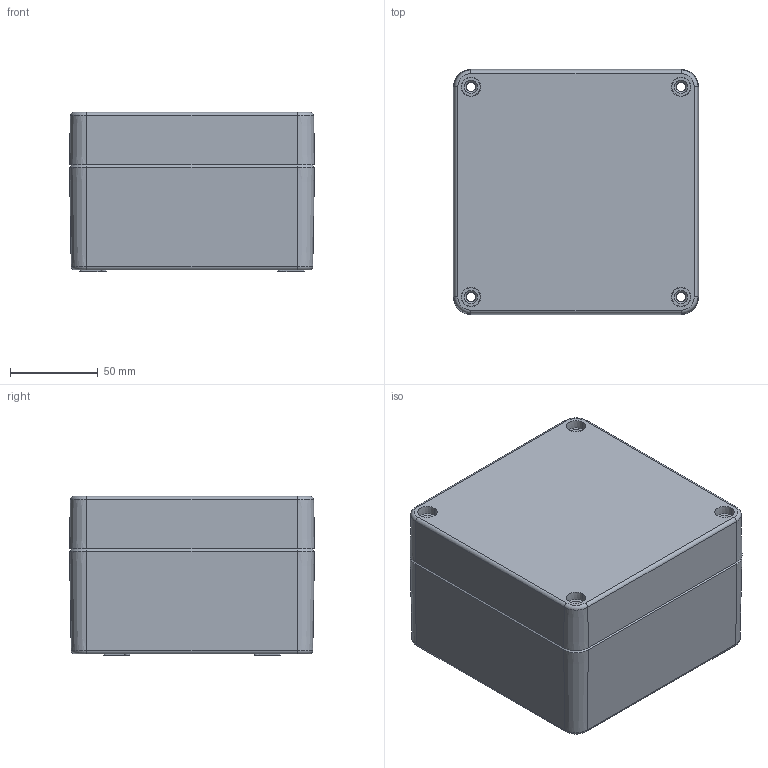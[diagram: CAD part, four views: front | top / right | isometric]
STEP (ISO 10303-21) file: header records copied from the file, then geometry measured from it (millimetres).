
FILE_DESCRIPTION (( 'STEP AP203' ), '1' );
FILE_NAME ('ALU ASSY 14014090.STEP', '2024-08-27T07:33:18', ( '' ), ( '' ), 'SwSTEP 2.0', 'SolidWorks 2018', '' );
FILE_SCHEMA (( 'CONFIG_CONTROL_DESIGN' ));
Length unit declared in the file: millimetre
Products named in the file (3): ALU BASE 14014090; ALU LID 14014090; ALU ASSY 14014090
Assembly tree (2 placements, depth 2):
  ALU ASSY 14014090
    ALU BASE 14014090
    ALU LID 14014090
Bounding box: 140 x 140 x 91 mm (x, y, z)
Volume: 469705 mm3; surface area: 187000.5 mm2
Topology: 2 solids, 2 shells, 604 faces, 1451 edges, 891 vertices
Faces by surface type: plane 228, cone 154, cylinder 149, torus 56, bspline 17
Entity records: 20812 total; most frequent: CARTESIAN_POINT 6236, DIRECTION 3120, ORIENTED_EDGE 2870, EDGE_CURVE 1435, AXIS2_PLACEMENT_3D 1163, VERTEX_POINT 891, LINE 794, VECTOR 794
